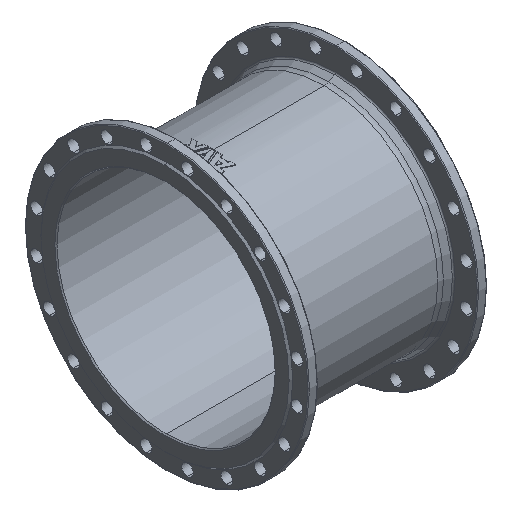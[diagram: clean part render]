
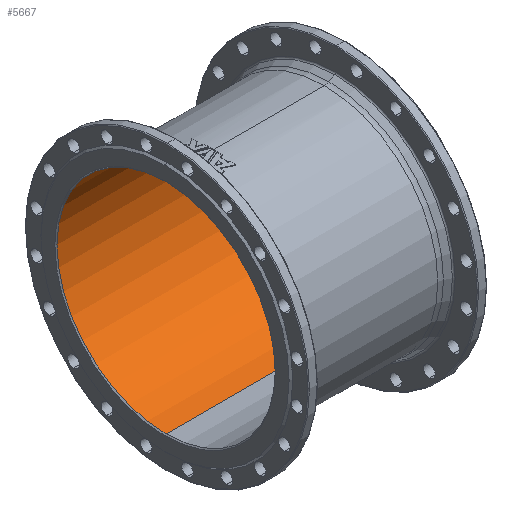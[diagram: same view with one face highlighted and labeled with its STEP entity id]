
A CAD part, isometric view. The second image highlights one B-rep face of the part: STEP entity #5667.
In plain terms, the highlighted cylindrical face has radius 300 mm (diameter 600 mm), a partial arc.
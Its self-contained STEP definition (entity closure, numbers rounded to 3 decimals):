
#711 = CYLINDRICAL_SURFACE ( 'NONE', #5503, 300. ) ;
#745 = DIRECTION ( 'NONE',  ( 0., 0., 1. ) ) ;
#795 = VERTEX_POINT ( 'NONE', #3525 ) ;
#921 = VECTOR ( 'NONE', #3172, 1000. ) ;
#937 = EDGE_CURVE ( 'NONE', #795, #5148, #1257, .T. ) ;
#1002 = ORIENTED_EDGE ( 'NONE', *, *, #3680, .T. ) ;
#1253 = EDGE_CURVE ( 'NONE', #1604, #3077, #4139, .T. ) ;
#1257 = LINE ( 'NONE', #4665, #921 ) ;
#1580 = CARTESIAN_POINT ( 'NONE',  ( -247., 0., 0. ) ) ;
#1604 = VERTEX_POINT ( 'NONE', #5431 ) ;
#1715 = ORIENTED_EDGE ( 'NONE', *, *, #5937, .T. ) ;
#1884 = ORIENTED_EDGE ( 'NONE', *, *, #937, .T. ) ;
#2117 = VECTOR ( 'NONE', #3660, 1000. ) ;
#2175 = AXIS2_PLACEMENT_3D ( 'NONE', #1580, #3495, #3552 ) ;
#2272 = ORIENTED_EDGE ( 'NONE', *, *, #1253, .F. ) ;
#2363 = DIRECTION ( 'NONE',  ( 0., 0., 1. ) ) ;
#2614 = CARTESIAN_POINT ( 'NONE',  ( 0., 0., 0. ) ) ;
#2618 = CARTESIAN_POINT ( 'NONE',  ( 0., 0., -300. ) ) ;
#3064 = CARTESIAN_POINT ( 'NONE',  ( -247., 0., -300. ) ) ;
#3077 = VERTEX_POINT ( 'NONE', #3064 ) ;
#3172 = DIRECTION ( 'NONE',  ( -1., 0., 0. ) ) ;
#3495 = DIRECTION ( 'NONE',  ( -1., 0., 0. ) ) ;
#3525 = CARTESIAN_POINT ( 'NONE',  ( 247., 0., 300. ) ) ;
#3552 = DIRECTION ( 'NONE',  ( 0., 0., -1. ) ) ;
#3660 = DIRECTION ( 'NONE',  ( -1., 0., 0. ) ) ;
#3678 = CIRCLE ( 'NONE', #5498, 300. ) ;
#3680 = EDGE_CURVE ( 'Defeatured_0_2+Defeatured_0_63+Defeatured_0_63+Defeatured_0_63', #1604, #795, #3678, .T. ) ;
#3965 = EDGE_LOOP ( 'NONE', ( #2272, #1002, #1884, #1715 ) ) ;
#4092 = CIRCLE ( 'NONE', #2175, 300. ) ;
#4139 = LINE ( 'NONE', #2618, #2117 ) ;
#4293 = DIRECTION ( 'NONE',  ( -1., 0., 0. ) ) ;
#4665 = CARTESIAN_POINT ( 'NONE',  ( 0., 0., 300. ) ) ;
#5021 = FACE_OUTER_BOUND ( 'NONE', #3965, .T. ) ;
#5056 = CARTESIAN_POINT ( 'NONE',  ( 247., 0., 0. ) ) ;
#5121 = DIRECTION ( 'NONE',  ( 1., 0., 0. ) ) ;
#5125 = CARTESIAN_POINT ( 'NONE',  ( -247., 0., 300. ) ) ;
#5148 = VERTEX_POINT ( 'NONE', #5125 ) ;
#5431 = CARTESIAN_POINT ( 'NONE',  ( 247., 0., -300. ) ) ;
#5498 = AXIS2_PLACEMENT_3D ( 'NONE', #5056, #5121, #745 ) ;
#5503 = AXIS2_PLACEMENT_3D ( 'NONE', #2614, #4293, #2363 ) ;
#5667 = ADVANCED_FACE ( 'Defeatured_0_2', ( #5021 ), #711, .F. ) ;
#5937 = EDGE_CURVE ( 'Defeatured_0_2+Defeatured_0_32+Defeatured_0_32+Defeatured_0_32', #5148, #3077, #4092, .T. ) ;
